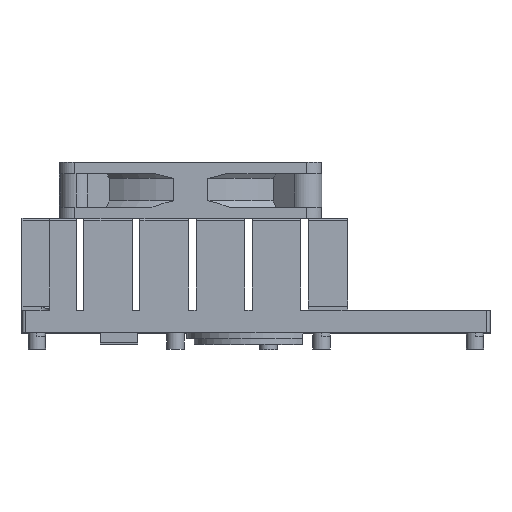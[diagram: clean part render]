
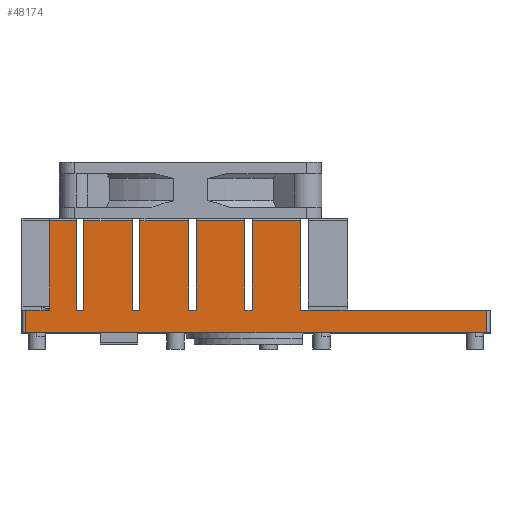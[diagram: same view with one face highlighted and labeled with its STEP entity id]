
A CAD part, top view. The second image highlights one B-rep face of the part: STEP entity #48174.
In plain terms, the highlighted planar face has unit normal (0, 0, 1).
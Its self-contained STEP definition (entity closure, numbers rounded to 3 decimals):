
#792=DIRECTION('',(-1.,0.,0.));
#793=VECTOR('',#792,6.25);
#794=CARTESIAN_POINT('',(-55.25,11.5,47.5));
#795=LINE('',#794,#793);
#946=DIRECTION('',(-1.,0.,0.));
#947=VECTOR('',#946,49.5);
#948=CARTESIAN_POINT('',(61.5,11.5,47.5));
#949=LINE('',#948,#947);
#1356=DIRECTION('',(1.,0.,0.));
#1357=VECTOR('',#1356,123.);
#1358=CARTESIAN_POINT('',(-61.5,5.5,47.5));
#1359=LINE('',#1358,#1357);
#23163=DIRECTION('',(0.,-1.,0.));
#23164=VECTOR('',#23163,6.);
#23165=CARTESIAN_POINT('',(61.5,11.5,47.5));
#23166=LINE('',#23165,#23164);
#23170=DIRECTION('',(0.,-1.,0.));
#23171=VECTOR('',#23170,6.);
#23172=CARTESIAN_POINT('',(-61.5,11.5,47.5));
#23173=LINE('',#23172,#23171);
#23177=DIRECTION('',(0.,-1.,0.));
#23178=VECTOR('',#23177,23.874);
#23179=CARTESIAN_POINT('',(-55.25,35.374,47.5));
#23180=LINE('',#23179,#23178);
#23184=DIRECTION('',(1.,0.,0.));
#23185=VECTOR('',#23184,7.25);
#23186=CARTESIAN_POINT('',(-55.25,35.374,47.5));
#23187=LINE('',#23186,#23185);
#23191=DIRECTION('',(0.,-1.,0.));
#23192=VECTOR('',#23191,23.874);
#23193=CARTESIAN_POINT('',(-48.,35.374,47.5));
#23194=LINE('',#23193,#23192);
#23198=DIRECTION('',(1.,0.,0.));
#23199=VECTOR('',#23198,2.);
#23200=CARTESIAN_POINT('',(-48.,11.5,47.5));
#23201=LINE('',#23200,#23199);
#23205=DIRECTION('',(0.,-1.,0.));
#23206=VECTOR('',#23205,23.874);
#23207=CARTESIAN_POINT('',(-46.,35.374,47.5));
#23208=LINE('',#23207,#23206);
#23212=DIRECTION('',(1.,0.,0.));
#23213=VECTOR('',#23212,13.);
#23214=CARTESIAN_POINT('',(-46.,35.374,47.5));
#23215=LINE('',#23214,#23213);
#23219=DIRECTION('',(0.,-1.,0.));
#23220=VECTOR('',#23219,23.874);
#23221=CARTESIAN_POINT('',(-33.,35.374,47.5));
#23222=LINE('',#23221,#23220);
#23226=DIRECTION('',(1.,0.,0.));
#23227=VECTOR('',#23226,2.);
#23228=CARTESIAN_POINT('',(-33.,11.5,47.5));
#23229=LINE('',#23228,#23227);
#23233=DIRECTION('',(0.,-1.,0.));
#23234=VECTOR('',#23233,23.874);
#23235=CARTESIAN_POINT('',(-31.,35.374,47.5));
#23236=LINE('',#23235,#23234);
#23240=DIRECTION('',(1.,0.,0.));
#23241=VECTOR('',#23240,13.);
#23242=CARTESIAN_POINT('',(-31.,35.374,47.5));
#23243=LINE('',#23242,#23241);
#23247=DIRECTION('',(0.,-1.,0.));
#23248=VECTOR('',#23247,23.874);
#23249=CARTESIAN_POINT('',(-18.,35.374,47.5));
#23250=LINE('',#23249,#23248);
#23254=DIRECTION('',(1.,0.,0.));
#23255=VECTOR('',#23254,2.);
#23256=CARTESIAN_POINT('',(-18.,11.5,47.5));
#23257=LINE('',#23256,#23255);
#23261=DIRECTION('',(0.,-1.,0.));
#23262=VECTOR('',#23261,23.874);
#23263=CARTESIAN_POINT('',(-16.,35.374,47.5));
#23264=LINE('',#23263,#23262);
#23268=DIRECTION('',(1.,0.,0.));
#23269=VECTOR('',#23268,13.);
#23270=CARTESIAN_POINT('',(-16.,35.374,47.5));
#23271=LINE('',#23270,#23269);
#23275=DIRECTION('',(0.,-1.,0.));
#23276=VECTOR('',#23275,23.874);
#23277=CARTESIAN_POINT('',(-3.,35.374,47.5));
#23278=LINE('',#23277,#23276);
#23282=DIRECTION('',(1.,0.,0.));
#23283=VECTOR('',#23282,2.);
#23284=CARTESIAN_POINT('',(-3.,11.5,47.5));
#23285=LINE('',#23284,#23283);
#23289=DIRECTION('',(0.,-1.,0.));
#23290=VECTOR('',#23289,23.874);
#23291=CARTESIAN_POINT('',(-1.,35.374,47.5));
#23292=LINE('',#23291,#23290);
#23296=DIRECTION('',(0.,-1.,0.));
#23297=VECTOR('',#23296,23.874);
#23298=CARTESIAN_POINT('',(12.,35.374,47.5));
#23299=LINE('',#23298,#23297);
#23575=DIRECTION('',(-1.,0.,0.));
#23576=VECTOR('',#23575,13.);
#23577=CARTESIAN_POINT('',(12.,35.374,47.5));
#23578=LINE('',#23577,#23576);
#27187=CARTESIAN_POINT('',(-48.,35.374,47.5));
#27188=CARTESIAN_POINT('',(-48.,11.5,47.5));
#27189=VERTEX_POINT('',#27187);
#27190=VERTEX_POINT('',#27188);
#27191=CARTESIAN_POINT('',(-46.,11.5,47.5));
#27192=VERTEX_POINT('',#27191);
#27193=CARTESIAN_POINT('',(-46.,35.374,47.5));
#27194=VERTEX_POINT('',#27193);
#27795=CARTESIAN_POINT('',(-33.,35.374,47.5));
#27796=CARTESIAN_POINT('',(-33.,11.5,47.5));
#27797=VERTEX_POINT('',#27795);
#27798=VERTEX_POINT('',#27796);
#27799=CARTESIAN_POINT('',(-31.,11.5,47.5));
#27800=VERTEX_POINT('',#27799);
#27801=CARTESIAN_POINT('',(-31.,35.374,47.5));
#27802=VERTEX_POINT('',#27801);
#28403=CARTESIAN_POINT('',(-18.,35.374,47.5));
#28404=CARTESIAN_POINT('',(-18.,11.5,47.5));
#28405=VERTEX_POINT('',#28403);
#28406=VERTEX_POINT('',#28404);
#28407=CARTESIAN_POINT('',(-16.,11.5,47.5));
#28408=VERTEX_POINT('',#28407);
#28409=CARTESIAN_POINT('',(-16.,35.374,47.5));
#28410=VERTEX_POINT('',#28409);
#29011=CARTESIAN_POINT('',(-3.,35.374,47.5));
#29012=CARTESIAN_POINT('',(-3.,11.5,47.5));
#29013=VERTEX_POINT('',#29011);
#29014=VERTEX_POINT('',#29012);
#29015=CARTESIAN_POINT('',(-1.,11.5,47.5));
#29016=VERTEX_POINT('',#29015);
#29017=CARTESIAN_POINT('',(-1.,35.374,47.5));
#29018=VERTEX_POINT('',#29017);
#29619=CARTESIAN_POINT('',(12.,35.374,47.5));
#29620=CARTESIAN_POINT('',(12.,11.5,47.5));
#29621=VERTEX_POINT('',#29619);
#29622=VERTEX_POINT('',#29620);
#30591=CARTESIAN_POINT('',(-55.25,35.374,47.5));
#30592=CARTESIAN_POINT('',(-55.25,11.5,47.5));
#30593=VERTEX_POINT('',#30591);
#30594=VERTEX_POINT('',#30592);
#30651=CARTESIAN_POINT('',(-61.5,11.5,47.5));
#30652=VERTEX_POINT('',#30651);
#30747=CARTESIAN_POINT('',(61.5,11.5,47.5));
#30748=VERTEX_POINT('',#30747);
#31309=CARTESIAN_POINT('',(-61.5,5.5,47.5));
#31311=VERTEX_POINT('',#31309);
#31314=CARTESIAN_POINT('',(61.5,5.5,47.5));
#31316=VERTEX_POINT('',#31314);
#48134=CARTESIAN_POINT('',(-62.5,0.,47.5));
#48135=DIRECTION('',(0.,0.,1.));
#48136=DIRECTION('',(1.,0.,0.));
#48137=AXIS2_PLACEMENT_3D('',#48134,#48135,#48136);
#48138=PLANE('',#48137);
#48139=ORIENTED_EDGE('',*,*,#31842,.F.);
#48141=ORIENTED_EDGE('',*,*,#48140,.T.);
#48142=ORIENTED_EDGE('',*,*,#32077,.F.);
#48144=ORIENTED_EDGE('',*,*,#48143,.F.);
#48145=ORIENTED_EDGE('',*,*,#31750,.F.);
#48147=ORIENTED_EDGE('',*,*,#48146,.F.);
#48149=ORIENTED_EDGE('',*,*,#48148,.T.);
#48150=ORIENTED_EDGE('',*,*,#34823,.T.);
#48151=ORIENTED_EDGE('',*,*,#44931,.T.);
#48152=ORIENTED_EDGE('',*,*,#44827,.F.);
#48154=ORIENTED_EDGE('',*,*,#48153,.T.);
#48155=ORIENTED_EDGE('',*,*,#35756,.T.);
#48156=ORIENTED_EDGE('',*,*,#36613,.T.);
#48157=ORIENTED_EDGE('',*,*,#36512,.F.);
#48159=ORIENTED_EDGE('',*,*,#48158,.T.);
#48160=ORIENTED_EDGE('',*,*,#45627,.T.);
#48161=ORIENTED_EDGE('',*,*,#46278,.T.);
#48162=ORIENTED_EDGE('',*,*,#46182,.F.);
#48164=ORIENTED_EDGE('',*,*,#48163,.T.);
#48165=ORIENTED_EDGE('',*,*,#47712,.T.);
#48166=ORIENTED_EDGE('',*,*,#48128,.T.);
#48167=ORIENTED_EDGE('',*,*,#34337,.F.);
#48169=ORIENTED_EDGE('',*,*,#48168,.F.);
#48171=ORIENTED_EDGE('',*,*,#48170,.T.);
#48172=EDGE_LOOP('',(#48139,#48141,#48142,#48144,#48145,#48147,#48149,#48150,
#48151,#48152,#48154,#48155,#48156,#48157,#48159,#48160,#48161,#48162,#48164,
#48165,#48166,#48167,#48169,#48171));
#48173=FACE_OUTER_BOUND('',#48172,.F.);
#48174=ADVANCED_FACE('',(#48173),#48138,.T.);
#31750=EDGE_CURVE('',#30594,#30652,#795,.T.);
#31842=EDGE_CURVE('',#30748,#29622,#949,.T.);
#32077=EDGE_CURVE('',#31311,#31316,#1359,.T.);
#34337=EDGE_CURVE('',#29018,#29016,#23292,.T.);
#34823=EDGE_CURVE('',#27189,#27190,#23194,.T.);
#35756=EDGE_CURVE('',#27797,#27798,#23222,.T.);
#36512=EDGE_CURVE('',#27802,#27800,#23236,.T.);
#36613=EDGE_CURVE('',#27798,#27800,#23229,.T.);
#44827=EDGE_CURVE('',#27194,#27192,#23208,.T.);
#44931=EDGE_CURVE('',#27190,#27192,#23201,.T.);
#45627=EDGE_CURVE('',#28405,#28406,#23250,.T.);
#46182=EDGE_CURVE('',#28410,#28408,#23264,.T.);
#46278=EDGE_CURVE('',#28406,#28408,#23257,.T.);
#47712=EDGE_CURVE('',#29013,#29014,#23278,.T.);
#48128=EDGE_CURVE('',#29014,#29016,#23285,.T.);
#48140=EDGE_CURVE('',#30748,#31316,#23166,.T.);
#48143=EDGE_CURVE('',#30652,#31311,#23173,.T.);
#48146=EDGE_CURVE('',#30593,#30594,#23180,.T.);
#48148=EDGE_CURVE('',#30593,#27189,#23187,.T.);
#48153=EDGE_CURVE('',#27194,#27797,#23215,.T.);
#48158=EDGE_CURVE('',#27802,#28405,#23243,.T.);
#48163=EDGE_CURVE('',#28410,#29013,#23271,.T.);
#48168=EDGE_CURVE('',#29621,#29018,#23578,.T.);
#48170=EDGE_CURVE('',#29621,#29622,#23299,.T.);
